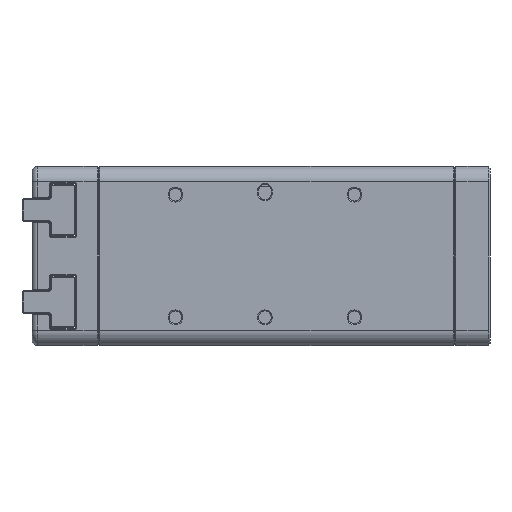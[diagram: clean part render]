
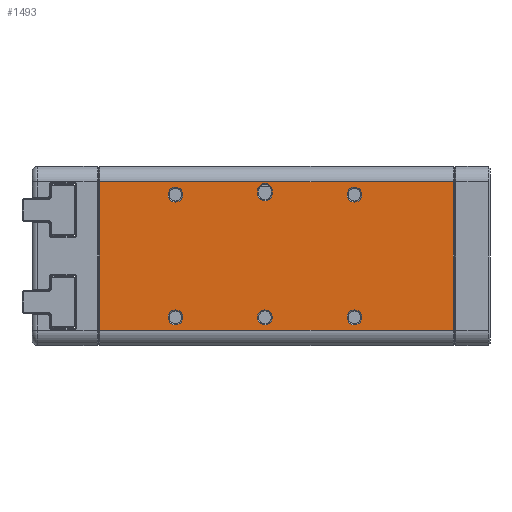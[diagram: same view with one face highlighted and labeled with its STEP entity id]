
A CAD part, left-side view. The second image highlights one B-rep face of the part: STEP entity #1493.
In plain terms, the highlighted planar face has unit normal (-1, 0, 0).
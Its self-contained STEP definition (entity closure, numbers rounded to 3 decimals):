
#393 = VERTEX_POINT ( 'NONE', #18336 ) ;
#503 = ORIENTED_EDGE ( 'NONE', *, *, #12027, .T. ) ;
#687 = VECTOR ( 'NONE', #18078, 1000. ) ;
#759 = CARTESIAN_POINT ( 'NONE',  ( -25., -69.3, -14.5 ) ) ;
#1004 = DIRECTION ( 'NONE',  ( 0., 0., 1. ) ) ;
#1304 = AXIS2_PLACEMENT_3D ( 'NONE', #29425, #15173, #1004 ) ;
#1360 = VERTEX_POINT ( 'NONE', #3013 ) ;
#1493 = ADVANCED_FACE ( 'NONE', ( #4099, #30076, #28583, #4848, #22302, #17713, #11395 ), #13122, .F. ) ;
#1707 = LINE ( 'NONE', #30799, #8011 ) ;
#1959 = CARTESIAN_POINT ( 'NONE',  ( -25., -50., 12. ) ) ;
#2334 = CARTESIAN_POINT ( 'NONE',  ( -25., -32.5, 12.75 ) ) ;
#2820 = EDGE_CURVE ( 'NONE', #11369, #3573, #1707, .T. ) ;
#2886 = CARTESIAN_POINT ( 'NONE',  ( -25., -15., -10.55 ) ) ;
#2942 = VERTEX_POINT ( 'NONE', #10217 ) ;
#3013 = CARTESIAN_POINT ( 'NONE',  ( -25., -0.2, -14.5 ) ) ;
#3497 = EDGE_CURVE ( 'NONE', #19989, #19989, #4271, .T. ) ;
#3573 = VERTEX_POINT ( 'NONE', #15586 ) ;
#3910 = CARTESIAN_POINT ( 'NONE',  ( -25., -0.2, -17.5 ) ) ;
#4099 = FACE_BOUND ( 'NONE', #8177, .T. ) ;
#4271 = CIRCLE ( 'NONE', #1304, 1.45 ) ;
#4272 = ORIENTED_EDGE ( 'NONE', *, *, #23103, .T. ) ;
#4336 = DIRECTION ( 'NONE',  ( 0., 0., 1. ) ) ;
#4719 = DIRECTION ( 'NONE',  ( 0., 0., 1. ) ) ;
#4848 = FACE_BOUND ( 'NONE', #26563, .T. ) ;
#4878 = CARTESIAN_POINT ( 'NONE',  ( -25., -32.5, 12.25 ) ) ;
#4967 = DIRECTION ( 'NONE',  ( 1., 0., 0. ) ) ;
#5674 = LINE ( 'NONE', #19902, #9689 ) ;
#6496 = CARTESIAN_POINT ( 'NONE',  ( -25., -33.95, -17.5 ) ) ;
#6849 = CIRCLE ( 'NONE', #25303, 1.45 ) ;
#7124 = EDGE_LOOP ( 'NONE', ( #27095 ) ) ;
#7267 = DIRECTION ( 'NONE',  ( 0., 0., 1. ) ) ;
#7366 = VERTEX_POINT ( 'NONE', #27251 ) ;
#7399 = VECTOR ( 'NONE', #20655, 1000. ) ;
#7593 = AXIS2_PLACEMENT_3D ( 'NONE', #25204, #10955, #27582 ) ;
#7665 = EDGE_CURVE ( 'NONE', #8383, #21634, #20729, .T. ) ;
#7789 = LINE ( 'NONE', #12407, #25979 ) ;
#8011 = VECTOR ( 'NONE', #16540, 1000. ) ;
#8177 = EDGE_LOOP ( 'NONE', ( #13455, #28885, #14499, #27831 ) ) ;
#8383 = VERTEX_POINT ( 'NONE', #11869 ) ;
#8603 = ORIENTED_EDGE ( 'NONE', *, *, #12302, .T. ) ;
#8822 = CIRCLE ( 'NONE', #28626, 1.45 ) ;
#9689 = VECTOR ( 'NONE', #24607, 1000. ) ;
#10217 = CARTESIAN_POINT ( 'NONE',  ( -25., -50., -10.55 ) ) ;
#10348 = CIRCLE ( 'NONE', #29840, 1.45 ) ;
#10955 = DIRECTION ( 'NONE',  ( 1., 0., 0. ) ) ;
#11369 = VERTEX_POINT ( 'NONE', #759 ) ;
#11395 = FACE_OUTER_BOUND ( 'NONE', #23945, .T. ) ;
#11647 = DIRECTION ( 'NONE',  ( 0., 1., 0. ) ) ;
#11824 = VERTEX_POINT ( 'NONE', #17214 ) ;
#11869 = CARTESIAN_POINT ( 'NONE',  ( -25., -33.95, 12.75 ) ) ;
#11954 = CARTESIAN_POINT ( 'NONE',  ( -25., -32.5, -12. ) ) ;
#12018 = AXIS2_PLACEMENT_3D ( 'NONE', #4878, #21442, #7267 ) ;
#12027 = EDGE_CURVE ( 'NONE', #2942, #2942, #24104, .T. ) ;
#12302 = EDGE_CURVE ( 'NONE', #14756, #14756, #10348, .T. ) ;
#12407 = CARTESIAN_POINT ( 'NONE',  ( -25., -31.05, -17.5 ) ) ;
#13122 = PLANE ( 'NONE',  #14945 ) ;
#13232 = ORIENTED_EDGE ( 'NONE', *, *, #15123, .T. ) ;
#13455 = ORIENTED_EDGE ( 'NONE', *, *, #18487, .T. ) ;
#14322 = DIRECTION ( 'NONE',  ( 0., 0., 1. ) ) ;
#14499 = ORIENTED_EDGE ( 'NONE', *, *, #7665, .T. ) ;
#14500 = ORIENTED_EDGE ( 'NONE', *, *, #24456, .T. ) ;
#14726 = VERTEX_POINT ( 'NONE', #20364 ) ;
#14756 = VERTEX_POINT ( 'NONE', #29211 ) ;
#14778 = DIRECTION ( 'NONE',  ( 0., 0., 1. ) ) ;
#14945 = AXIS2_PLACEMENT_3D ( 'NONE', #27362, #29747, #15496 ) ;
#15123 = EDGE_CURVE ( 'NONE', #3573, #18131, #24687, .T. ) ;
#15173 = DIRECTION ( 'NONE',  ( 1., 0., 0. ) ) ;
#15496 = DIRECTION ( 'NONE',  ( 0., 0., 1. ) ) ;
#15586 = CARTESIAN_POINT ( 'NONE',  ( -25., -69.3, 14.5 ) ) ;
#16014 = ORIENTED_EDGE ( 'NONE', *, *, #3497, .T. ) ;
#16540 = DIRECTION ( 'NONE',  ( 0., 0., 1. ) ) ;
#17214 = CARTESIAN_POINT ( 'NONE',  ( -25., -31.05, 12.25 ) ) ;
#17287 = EDGE_LOOP ( 'NONE', ( #16014 ) ) ;
#17713 = FACE_BOUND ( 'NONE', #26138, .T. ) ;
#18078 = DIRECTION ( 'NONE',  ( 0., 0., -1. ) ) ;
#18130 = CARTESIAN_POINT ( 'NONE',  ( -25., -0.2, 14.5 ) ) ;
#18131 = VERTEX_POINT ( 'NONE', #18130 ) ;
#18168 = ORIENTED_EDGE ( 'NONE', *, *, #27521, .T. ) ;
#18336 = CARTESIAN_POINT ( 'NONE',  ( -25., -31.05, 12.75 ) ) ;
#18394 = EDGE_CURVE ( 'NONE', #21634, #11824, #23369, .T. ) ;
#18487 = EDGE_CURVE ( 'NONE', #11824, #393, #7789, .T. ) ;
#18511 = DIRECTION ( 'NONE',  ( 1., 0., 0. ) ) ;
#18899 = DIRECTION ( 'NONE',  ( 1., 0., 0. ) ) ;
#18957 = EDGE_LOOP ( 'NONE', ( #8603 ) ) ;
#19132 = CARTESIAN_POINT ( 'NONE',  ( -25., -15., 12. ) ) ;
#19902 = CARTESIAN_POINT ( 'NONE',  ( -25., -71.5, -14.5 ) ) ;
#19989 = VERTEX_POINT ( 'NONE', #2886 ) ;
#20019 = ORIENTED_EDGE ( 'NONE', *, *, #2820, .T. ) ;
#20364 = CARTESIAN_POINT ( 'NONE',  ( -25., -32.5, -10.55 ) ) ;
#20655 = DIRECTION ( 'NONE',  ( 0., 0., -1. ) ) ;
#20729 = LINE ( 'NONE', #6496, #7399 ) ;
#21442 = DIRECTION ( 'NONE',  ( 1., 0., 0. ) ) ;
#21530 = DIRECTION ( 'NONE',  ( 0., 0., 1. ) ) ;
#21634 = VERTEX_POINT ( 'NONE', #30266 ) ;
#22302 = FACE_BOUND ( 'NONE', #17287, .T. ) ;
#23103 = EDGE_CURVE ( 'NONE', #7366, #7366, #6849, .T. ) ;
#23369 = CIRCLE ( 'NONE', #12018, 1.45 ) ;
#23713 = CIRCLE ( 'NONE', #26943, 1.45 ) ;
#23945 = EDGE_LOOP ( 'NONE', ( #14500, #20019, #13232, #18168 ) ) ;
#24104 = CIRCLE ( 'NONE', #7593, 1.45 ) ;
#24454 = LINE ( 'NONE', #3910, #687 ) ;
#24456 = EDGE_CURVE ( 'NONE', #1360, #11369, #5674, .T. ) ;
#24607 = DIRECTION ( 'NONE',  ( 0., -1., 0. ) ) ;
#24687 = LINE ( 'NONE', #30771, #29498 ) ;
#25204 = CARTESIAN_POINT ( 'NONE',  ( -25., -50., -12. ) ) ;
#25303 = AXIS2_PLACEMENT_3D ( 'NONE', #1959, #18511, #4336 ) ;
#25979 = VECTOR ( 'NONE', #14778, 1000. ) ;
#26138 = EDGE_LOOP ( 'NONE', ( #503 ) ) ;
#26563 = EDGE_LOOP ( 'NONE', ( #4272 ) ) ;
#26943 = AXIS2_PLACEMENT_3D ( 'NONE', #11954, #28576, #14322 ) ;
#27095 = ORIENTED_EDGE ( 'NONE', *, *, #30777, .T. ) ;
#27251 = CARTESIAN_POINT ( 'NONE',  ( -25., -50., 13.45 ) ) ;
#27362 = CARTESIAN_POINT ( 'NONE',  ( -25., -71.5, -17.5 ) ) ;
#27521 = EDGE_CURVE ( 'NONE', #18131, #1360, #24454, .T. ) ;
#27582 = DIRECTION ( 'NONE',  ( 0., 0., 1. ) ) ;
#27692 = EDGE_CURVE ( 'NONE', #393, #8383, #8822, .T. ) ;
#27831 = ORIENTED_EDGE ( 'NONE', *, *, #18394, .T. ) ;
#28576 = DIRECTION ( 'NONE',  ( 1., 0., 0. ) ) ;
#28583 = FACE_BOUND ( 'NONE', #18957, .T. ) ;
#28626 = AXIS2_PLACEMENT_3D ( 'NONE', #2334, #18899, #4719 ) ;
#28885 = ORIENTED_EDGE ( 'NONE', *, *, #27692, .T. ) ;
#29211 = CARTESIAN_POINT ( 'NONE',  ( -25., -15., 13.45 ) ) ;
#29425 = CARTESIAN_POINT ( 'NONE',  ( -25., -15., -12. ) ) ;
#29498 = VECTOR ( 'NONE', #11647, 1000. ) ;
#29747 = DIRECTION ( 'NONE',  ( 1., 0., 0. ) ) ;
#29840 = AXIS2_PLACEMENT_3D ( 'NONE', #19132, #4967, #21530 ) ;
#30076 = FACE_BOUND ( 'NONE', #7124, .T. ) ;
#30266 = CARTESIAN_POINT ( 'NONE',  ( -25., -33.95, 12.25 ) ) ;
#30771 = CARTESIAN_POINT ( 'NONE',  ( -25., -71.5, 14.5 ) ) ;
#30777 = EDGE_CURVE ( 'NONE', #14726, #14726, #23713, .T. ) ;
#30799 = CARTESIAN_POINT ( 'NONE',  ( -25., -69.3, -17.5 ) ) ;
